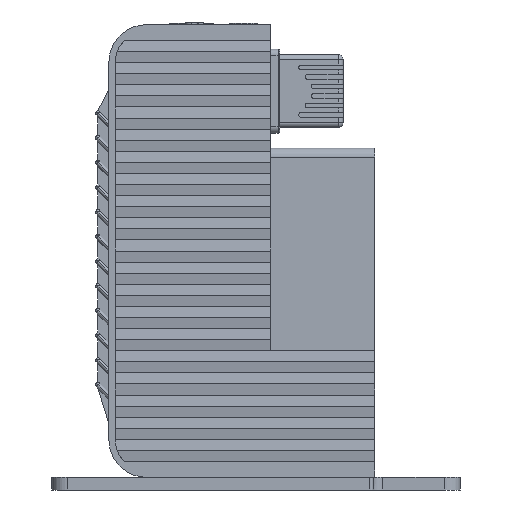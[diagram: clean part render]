
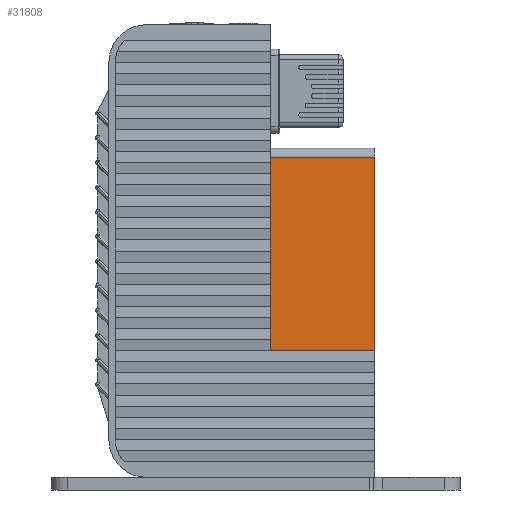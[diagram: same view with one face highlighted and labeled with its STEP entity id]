
A CAD part, left-side view. The second image highlights one B-rep face of the part: STEP entity #31808.
In plain terms, the highlighted planar face has unit normal (-1, 0, 0).
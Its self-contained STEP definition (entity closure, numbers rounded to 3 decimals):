
#1131 = VERTEX_POINT ( 'NONE', #18279 ) ;
#2356 = ORIENTED_EDGE ( 'NONE', *, *, #27336, .T. ) ;
#2590 = LINE ( 'NONE', #17253, #27368 ) ;
#2732 = CARTESIAN_POINT ( 'NONE',  ( 0.5, 0., 0. ) ) ;
#3025 = VECTOR ( 'NONE', #28074, 1000. ) ;
#3105 = LINE ( 'NONE', #31418, #19302 ) ;
#3148 = VERTEX_POINT ( 'NONE', #33995 ) ;
#3161 = CARTESIAN_POINT ( 'NONE',  ( 0.5, 0., 105. ) ) ;
#3339 = ORIENTED_EDGE ( 'NONE', *, *, #23259, .T. ) ;
#3801 = VECTOR ( 'NONE', #17963, 1000. ) ;
#4415 = CARTESIAN_POINT ( 'NONE',  ( 0.5, 33., 44. ) ) ;
#4536 = VERTEX_POINT ( 'NONE', #10932 ) ;
#4589 = VERTEX_POINT ( 'NONE', #17708 ) ;
#5197 = EDGE_CURVE ( 'NONE', #1131, #20125, #17389, .T. ) ;
#5278 = CARTESIAN_POINT ( 'NONE',  ( 0.5, 0., 44. ) ) ;
#5475 = CARTESIAN_POINT ( 'NONE',  ( 0.5, 33., 44. ) ) ;
#5611 = VERTEX_POINT ( 'NONE', #29353 ) ;
#5764 = LINE ( 'NONE', #3161, #39171 ) ;
#6007 = DIRECTION ( 'NONE',  ( 0., 0., -1. ) ) ;
#6188 = EDGE_CURVE ( 'NONE', #3148, #5611, #14352, .T. ) ;
#7265 = ORIENTED_EDGE ( 'NONE', *, *, #11977, .T. ) ;
#7273 = ORIENTED_EDGE ( 'NONE', *, *, #30524, .T. ) ;
#7520 = EDGE_CURVE ( 'NONE', #4589, #3148, #12700, .T. ) ;
#7633 = VERTEX_POINT ( 'NONE', #26766 ) ;
#7781 = VECTOR ( 'NONE', #33787, 1000. ) ;
#8607 = LINE ( 'NONE', #5278, #41032 ) ;
#8967 = DIRECTION ( 'NONE',  ( 0., 0., -1. ) ) ;
#10932 = CARTESIAN_POINT ( 'NONE',  ( 0.5, 33., 72. ) ) ;
#11685 = CARTESIAN_POINT ( 'NONE',  ( 0.5, 0., 44. ) ) ;
#11879 = VECTOR ( 'NONE', #8967, 1000. ) ;
#11977 = EDGE_CURVE ( 'NONE', #31831, #4589, #5764, .T. ) ;
#12448 = LINE ( 'NONE', #37351, #3801 ) ;
#12700 = LINE ( 'NONE', #5475, #3025 ) ;
#13133 = ORIENTED_EDGE ( 'NONE', *, *, #29329, .T. ) ;
#14117 = VECTOR ( 'NONE', #30280, 1000. ) ;
#14352 = LINE ( 'NONE', #19820, #31530 ) ;
#14726 = ORIENTED_EDGE ( 'NONE', *, *, #19896, .T. ) ;
#16588 = LINE ( 'NONE', #11685, #40401 ) ;
#17253 = CARTESIAN_POINT ( 'NONE',  ( 0.5, 33., 44. ) ) ;
#17389 = LINE ( 'NONE', #20755, #7781 ) ;
#17708 = CARTESIAN_POINT ( 'NONE',  ( 0.5, 33., 105. ) ) ;
#17806 = LINE ( 'NONE', #37533, #25397 ) ;
#17963 = DIRECTION ( 'NONE',  ( 0., 0., -1. ) ) ;
#18279 = CARTESIAN_POINT ( 'NONE',  ( 0.5, 33., 51. ) ) ;
#18362 = EDGE_CURVE ( 'NONE', #20125, #36052, #8607, .T. ) ;
#19302 = VECTOR ( 'NONE', #34668, 1000. ) ;
#19820 = CARTESIAN_POINT ( 'NONE',  ( 0.5, 33., 44. ) ) ;
#19896 = EDGE_CURVE ( 'NONE', #5611, #22420, #22665, .T. ) ;
#20125 = VERTEX_POINT ( 'NONE', #28272 ) ;
#20357 = ORIENTED_EDGE ( 'NONE', *, *, #5197, .T. ) ;
#20418 = LINE ( 'NONE', #41244, #11879 ) ;
#20472 = DIRECTION ( 'NONE',  ( 0., 0., -1. ) ) ;
#20755 = CARTESIAN_POINT ( 'NONE',  ( 0.5, 33., 44. ) ) ;
#21388 = DIRECTION ( 'NONE',  ( 0., 0., 1. ) ) ;
#21509 = VERTEX_POINT ( 'NONE', #34471 ) ;
#22420 = VERTEX_POINT ( 'NONE', #33407 ) ;
#22665 = LINE ( 'NONE', #4415, #14117 ) ;
#23259 = EDGE_CURVE ( 'NONE', #4536, #40553, #2590, .T. ) ;
#24685 = ORIENTED_EDGE ( 'NONE', *, *, #34748, .T. ) ;
#25352 = DIRECTION ( 'NONE',  ( 1., 0., 0. ) ) ;
#25397 = VECTOR ( 'NONE', #40814, 1000. ) ;
#26766 = CARTESIAN_POINT ( 'NONE',  ( 0.5, 33., 58. ) ) ;
#27336 = EDGE_CURVE ( 'NONE', #21509, #4536, #12448, .T. ) ;
#27368 = VECTOR ( 'NONE', #20472, 1000. ) ;
#27902 = AXIS2_PLACEMENT_3D ( 'NONE', #2732, #25352, #6007 ) ;
#28074 = DIRECTION ( 'NONE',  ( 0., 0., -1. ) ) ;
#28272 = CARTESIAN_POINT ( 'NONE',  ( 0.5, 33., 44. ) ) ;
#28455 = PLANE ( 'NONE',  #27902 ) ;
#28596 = CARTESIAN_POINT ( 'NONE',  ( 0.5, 0., 105. ) ) ;
#29329 = EDGE_CURVE ( 'NONE', #22420, #21509, #3105, .T. ) ;
#29353 = CARTESIAN_POINT ( 'NONE',  ( 0.5, 33., 93. ) ) ;
#30280 = DIRECTION ( 'NONE',  ( 0., 0., -1. ) ) ;
#30524 = EDGE_CURVE ( 'NONE', #40553, #7633, #20418, .T. ) ;
#31418 = CARTESIAN_POINT ( 'NONE',  ( 0.5, 33., 44. ) ) ;
#31530 = VECTOR ( 'NONE', #39252, 1000. ) ;
#31808 = ADVANCED_FACE ( 'NONE', ( #39642 ), #28455, .F. ) ;
#31831 = VERTEX_POINT ( 'NONE', #28596 ) ;
#31917 = ORIENTED_EDGE ( 'NONE', *, *, #7520, .T. ) ;
#33407 = CARTESIAN_POINT ( 'NONE',  ( 0.5, 33., 86. ) ) ;
#33787 = DIRECTION ( 'NONE',  ( 0., 0., -1. ) ) ;
#33995 = CARTESIAN_POINT ( 'NONE',  ( 0.5, 33., 100. ) ) ;
#34448 = ORIENTED_EDGE ( 'NONE', *, *, #18362, .T. ) ;
#34471 = CARTESIAN_POINT ( 'NONE',  ( 0.5, 33., 79. ) ) ;
#34668 = DIRECTION ( 'NONE',  ( 0., 0., -1. ) ) ;
#34748 = EDGE_CURVE ( 'NONE', #36052, #31831, #16588, .T. ) ;
#36052 = VERTEX_POINT ( 'NONE', #40105 ) ;
#37351 = CARTESIAN_POINT ( 'NONE',  ( 0.5, 33., 44. ) ) ;
#37533 = CARTESIAN_POINT ( 'NONE',  ( 0.5, 33., 44. ) ) ;
#37655 = DIRECTION ( 'NONE',  ( 0., -1., 0. ) ) ;
#37783 = EDGE_CURVE ( 'NONE', #7633, #1131, #17806, .T. ) ;
#38148 = ORIENTED_EDGE ( 'NONE', *, *, #6188, .T. ) ;
#38416 = EDGE_LOOP ( 'NONE', ( #24685, #7265, #31917, #38148, #14726, #13133, #2356, #3339, #7273, #38781, #20357, #34448 ) ) ;
#38781 = ORIENTED_EDGE ( 'NONE', *, *, #37783, .T. ) ;
#38813 = DIRECTION ( 'NONE',  ( 0., 1., 0. ) ) ;
#39171 = VECTOR ( 'NONE', #38813, 1000. ) ;
#39252 = DIRECTION ( 'NONE',  ( 0., 0., -1. ) ) ;
#39642 = FACE_OUTER_BOUND ( 'NONE', #38416, .T. ) ;
#40105 = CARTESIAN_POINT ( 'NONE',  ( 0.5, 0., 44. ) ) ;
#40401 = VECTOR ( 'NONE', #21388, 1000. ) ;
#40553 = VERTEX_POINT ( 'NONE', #41402 ) ;
#40814 = DIRECTION ( 'NONE',  ( 0., 0., -1. ) ) ;
#41032 = VECTOR ( 'NONE', #37655, 1000. ) ;
#41244 = CARTESIAN_POINT ( 'NONE',  ( 0.5, 33., 44. ) ) ;
#41402 = CARTESIAN_POINT ( 'NONE',  ( 0.5, 33., 65. ) ) ;
